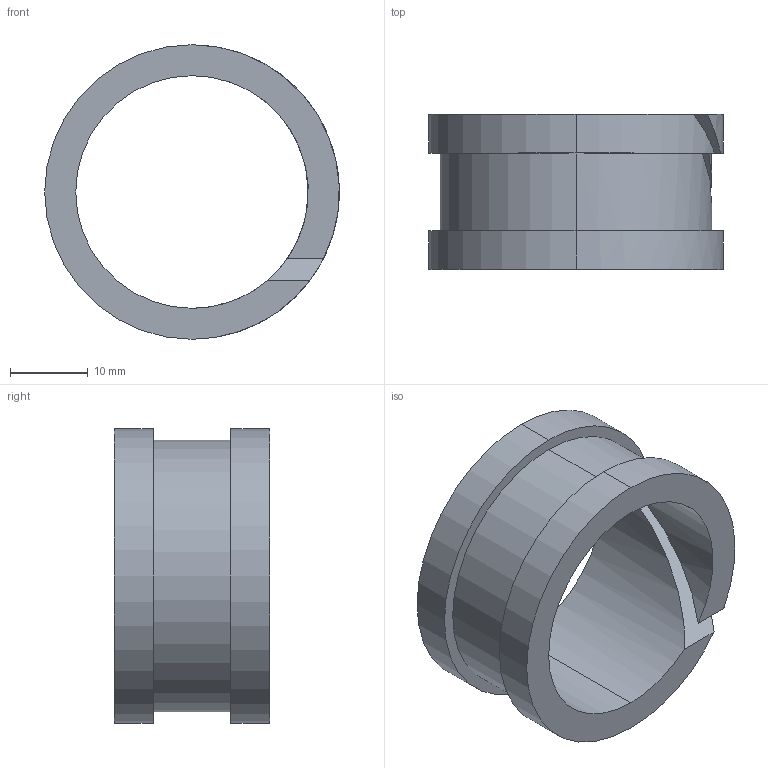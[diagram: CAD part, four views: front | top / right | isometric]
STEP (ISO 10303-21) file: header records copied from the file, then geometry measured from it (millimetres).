
FILE_DESCRIPTION (( 'STEP AP214' ), '1' );
FILE_NAME ('2026_7_1_スリット入りカラー.STEP', '2026-07-03T11:25:57', ( '' ), ( '' ), 'SwSTEP 2.0', 'SolidWorks 2025', '' );
FILE_SCHEMA (( 'AUTOMOTIVE_DESIGN' ));
Length unit declared in the file: millimetre
Products named in the file (1): 2026_7_1_スリット入りカラー
Bounding box: 37.99 x 20 x 38 mm (x, y, z)
Volume: 6625.4 mm3; surface area: 5418.6 mm2
Topology: 1 solids, 1 shells, 18 faces, 48 edges, 32 vertices
Faces by surface type: cylinder 12, plane 6
Entity records: 599 total; most frequent: CARTESIAN_POINT 123, DIRECTION 102, ORIENTED_EDGE 96, EDGE_CURVE 48, AXIS2_PLACEMENT_3D 43, VERTEX_POINT 32, CIRCLE 24, FACE_OUTER_BOUND 18
